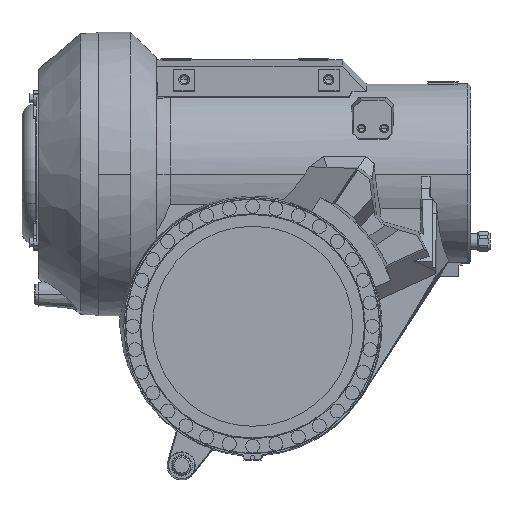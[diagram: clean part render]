
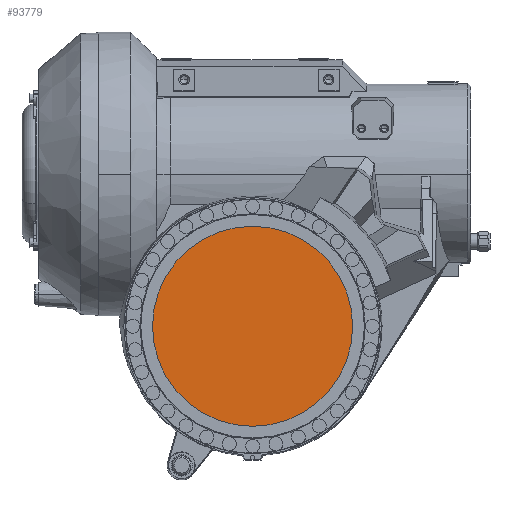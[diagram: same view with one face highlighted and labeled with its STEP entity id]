
A CAD part, front view. The second image highlights one B-rep face of the part: STEP entity #93779.
In plain terms, the highlighted planar face has unit normal (0, -1, 0).
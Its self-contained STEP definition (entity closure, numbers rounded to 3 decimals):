
#3682 = DIRECTION ( 'NONE',  ( 1., 0., 0. ) ) ;
#10055 = EDGE_CURVE ( 'NONE', #31865, #77768, #20026, .T. ) ;
#14303 = PLANE ( 'NONE',  #16416 ) ;
#16416 = AXIS2_PLACEMENT_3D ( 'NONE', #58947, #81812, #44041 ) ;
#18447 = DIRECTION ( 'NONE',  ( 1., 0., 0. ) ) ;
#20026 = CIRCLE ( 'NONE', #75497, 131.5 ) ;
#20508 = AXIS2_PLACEMENT_3D ( 'NONE', #85478, #24434, #18447 ) ;
#24434 = DIRECTION ( 'NONE',  ( 0., -1., 0. ) ) ;
#26334 = CARTESIAN_POINT ( 'NONE',  ( 208.5, -265., 1950. ) ) ;
#30770 = CARTESIAN_POINT ( 'NONE',  ( 471.5, -265., 1950. ) ) ;
#31865 = VERTEX_POINT ( 'NONE', #26334 ) ;
#31932 = ORIENTED_EDGE ( 'NONE', *, *, #10055, .T. ) ;
#44041 = DIRECTION ( 'NONE',  ( -1., 0., 0. ) ) ;
#57740 = EDGE_CURVE ( 'NONE', #77768, #31865, #75969, .T. ) ;
#58947 = CARTESIAN_POINT ( 'NONE',  ( 340., -265., 2081. ) ) ;
#62087 = ORIENTED_EDGE ( 'NONE', *, *, #57740, .T. ) ;
#67349 = FACE_OUTER_BOUND ( 'NONE', #80509, .T. ) ;
#71632 = DIRECTION ( 'NONE',  ( 0., -1., 0. ) ) ;
#75497 = AXIS2_PLACEMENT_3D ( 'NONE', #86581, #71632, #3682 ) ;
#75969 = CIRCLE ( 'NONE', #20508, 131.5 ) ;
#77768 = VERTEX_POINT ( 'NONE', #30770 ) ;
#80509 = EDGE_LOOP ( 'NONE', ( #62087, #31932 ) ) ;
#81812 = DIRECTION ( 'NONE',  ( 0., 1., 0. ) ) ;
#85478 = CARTESIAN_POINT ( 'NONE',  ( 340., -265., 1950. ) ) ;
#86581 = CARTESIAN_POINT ( 'NONE',  ( 340., -265., 1950. ) ) ;
#93779 = ADVANCED_FACE ( 'NONE', ( #67349 ), #14303, .F. ) ;
